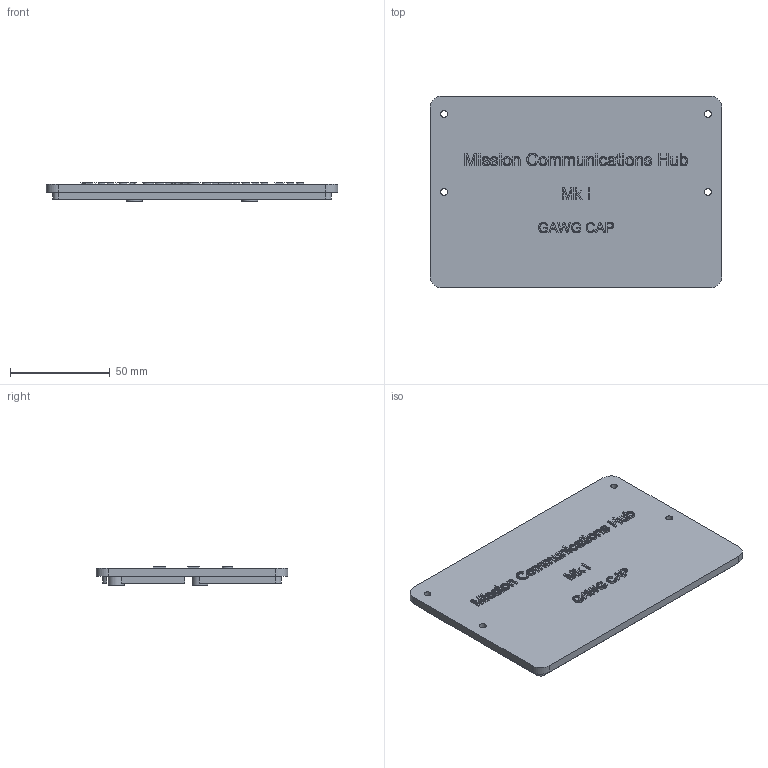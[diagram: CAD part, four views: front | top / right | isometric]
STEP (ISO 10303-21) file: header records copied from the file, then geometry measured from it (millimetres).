
FILE_DESCRIPTION(('Open CASCADE Model'),'2;1');
FILE_NAME('Open CASCADE Shape Model','2026-07-24T10:12:53',('Author'),( 'Open CASCADE'),'Open CASCADE STEP processor 7.9','Open CASCADE 7.9' ,'Unknown');
FILE_SCHEMA(('AUTOMOTIVE_DESIGN { 1 0 10303 214 1 1 1 1 }'));
Products named in the file (1): Open CASCADE STEP translator 7.9 2
Bounding box: 146 x 96 x 9.3 mm (x, y, z)
Volume: 59439 mm3; surface area: 34332.4 mm2
Topology: 1 solids, 1 shells, 758 faces, 2103 edges, 1402 vertices
Faces by surface type: extrusion 415, plane 317, cylinder 26
Full cylindrical faces by diameter (mm): 3.4 x4, 4.6 x4, 8 x4, 10.3 x4
Entity records: 52040 total; most frequent: CARTESIAN_POINT 12910, DIRECTION 5730, VECTOR 4878, LINE 4463, ORIENTED_EDGE 4206, PCURVE 4206, DEFINITIONAL_REPRESENTATION 4206, B_SPLINE_CURVE_WITH_KNOTS 2125
